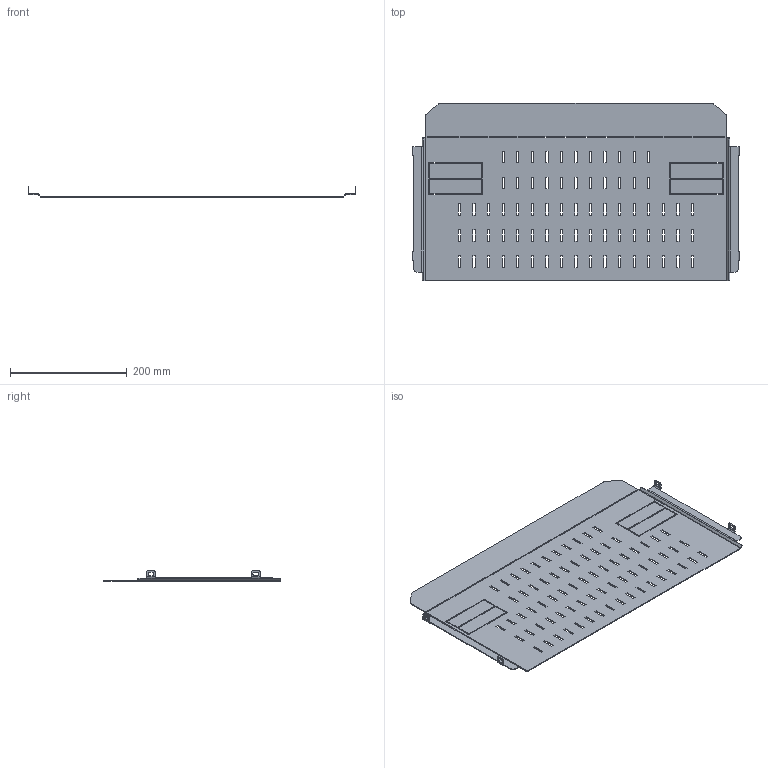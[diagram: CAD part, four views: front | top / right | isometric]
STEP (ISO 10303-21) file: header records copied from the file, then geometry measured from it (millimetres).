
FILE_DESCRIPTION(('STEP AP203'), '1');
FILE_NAME('拺譇緛樇鳺 膻緱槫 埡 400劗600 擤 OptiBox M 419205 忡曖', '', ('UNSPECIFIED'), ('UNSPECIFIED'), 'C3D Converter', 'C3D Toolkit', '');
FILE_SCHEMA(('CONFIG_CONTROL_DESIGN'));
Length unit declared in the file: millimetre
Bounding box: 563.03 x 305 x 18.67 mm (x, y, z)
Volume: 238689.8 mm3; surface area: 330190.3 mm2
Topology: 1 solids, 1 shells, 500 faces, 1442 edges, 944 vertices
Faces by surface type: plane 458, cylinder 42
Entity records: 16518 total; most frequent: CARTESIAN_POINT 2887, ORIENTED_EDGE 2884, DIRECTION 2528, EDGE_CURVE 1442, LINE 1358, VECTOR 1358, VERTEX_POINT 944, FACE_BOUND 702
